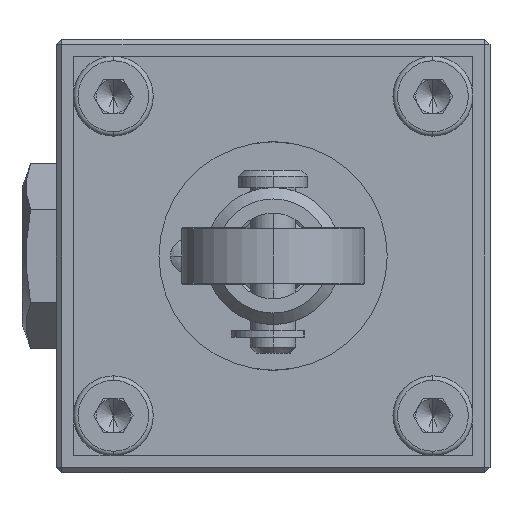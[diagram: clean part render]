
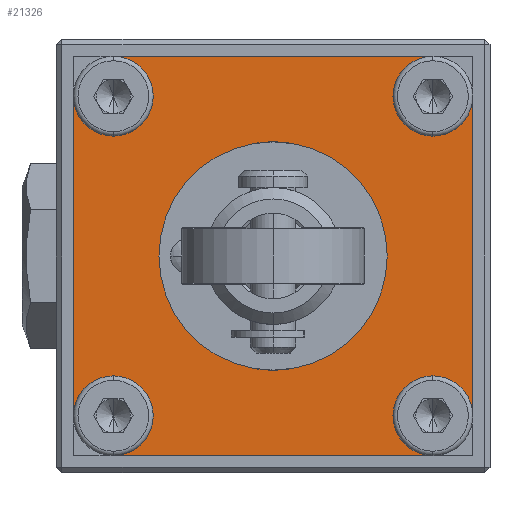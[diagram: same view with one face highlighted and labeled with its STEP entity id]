
A CAD part, left-side view. The second image highlights one B-rep face of the part: STEP entity #21326.
In plain terms, the highlighted planar face has unit normal (-1, 0, 0).
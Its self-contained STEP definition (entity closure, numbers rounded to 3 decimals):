
#133 = CIRCLE ( 'NONE', #16023, 3.5 ) ;
#794 = CARTESIAN_POINT ( 'NONE',  ( -19., 14., -14. ) ) ;
#960 = ORIENTED_EDGE ( 'NONE', *, *, #29785, .F. ) ;
#1013 = AXIS2_PLACEMENT_3D ( 'NONE', #40211, #12799, #44833 ) ;
#3227 = VERTEX_POINT ( 'NONE', #30214 ) ;
#3653 = AXIS2_PLACEMENT_3D ( 'NONE', #54895, #54686, #53870 ) ;
#3751 = CARTESIAN_POINT ( 'NONE',  ( -19., 7.5, 1.6 ) ) ;
#3828 = ORIENTED_EDGE ( 'NONE', *, *, #30053, .F. ) ;
#3909 = CARTESIAN_POINT ( 'NONE',  ( -19., -14., 14. ) ) ;
#4803 = CIRCLE ( 'NONE', #30441, 3.5 ) ;
#4923 = AXIS2_PLACEMENT_3D ( 'NONE', #58546, #58535, #58473 ) ;
#5716 = AXIS2_PLACEMENT_3D ( 'NONE', #31584, #31501, #31431 ) ;
#5722 = VERTEX_POINT ( 'NONE', #55428 ) ;
#5928 = ORIENTED_EDGE ( 'NONE', *, *, #29624, .F. ) ;
#7204 = ORIENTED_EDGE ( 'NONE', *, *, #30063, .F. ) ;
#8144 = EDGE_CURVE ( 'NONE', #13792, #39085, #18884, .T. ) ;
#8515 = EDGE_CURVE ( 'NONE', #12744, #3227, #37879, .T. ) ;
#8715 = DIRECTION ( 'NONE',  ( 0., 0., 1. ) ) ;
#9666 = CIRCLE ( 'NONE', #27898, 3.5 ) ;
#9762 = CARTESIAN_POINT ( 'NONE',  ( -19., 14., -14. ) ) ;
#10939 = EDGE_CURVE ( 'NONE', #10958, #16752, #4803, .T. ) ;
#10958 = VERTEX_POINT ( 'NONE', #29569 ) ;
#11287 = FACE_BOUND ( 'NONE', #41205, .T. ) ;
#12176 = EDGE_CURVE ( 'NONE', #50279, #59066, #13936, .T. ) ;
#12744 = VERTEX_POINT ( 'NONE', #37353 ) ;
#12799 = DIRECTION ( 'NONE',  ( -1., 0., 0. ) ) ;
#12934 = CARTESIAN_POINT ( 'NONE',  ( -19., -17.5, 17.5 ) ) ;
#13064 = AXIS2_PLACEMENT_3D ( 'NONE', #40093, #40017, #39954 ) ;
#13082 = EDGE_CURVE ( 'NONE', #44368, #32156, #43165, .T. ) ;
#13792 = VERTEX_POINT ( 'NONE', #56078 ) ;
#13936 = CIRCLE ( 'NONE', #3653, 3.5 ) ;
#14378 = ORIENTED_EDGE ( 'NONE', *, *, #12176, .F. ) ;
#14451 = DIRECTION ( 'NONE',  ( 0., 1., 0. ) ) ;
#14597 = CARTESIAN_POINT ( 'NONE',  ( -19., 14., -17.5 ) ) ;
#15280 = EDGE_CURVE ( 'NONE', #15705, #5722, #44722, .T. ) ;
#15369 = LINE ( 'NONE', #12934, #38189 ) ;
#15580 = CARTESIAN_POINT ( 'NONE',  ( -19., -14., 10.5 ) ) ;
#15705 = VERTEX_POINT ( 'NONE', #16681 ) ;
#16023 = AXIS2_PLACEMENT_3D ( 'NONE', #25025, #56509, #29525 ) ;
#16295 = CARTESIAN_POINT ( 'NONE',  ( -19., -14., -14. ) ) ;
#16681 = CARTESIAN_POINT ( 'NONE',  ( -19., 14., -10.5 ) ) ;
#16752 = VERTEX_POINT ( 'NONE', #15580 ) ;
#16799 = CARTESIAN_POINT ( 'NONE',  ( -19., -17.5, 17.5 ) ) ;
#16884 = DIRECTION ( 'NONE',  ( -1., 0., 0. ) ) ;
#16950 = CARTESIAN_POINT ( 'NONE',  ( -19., 14., 14. ) ) ;
#17338 = CARTESIAN_POINT ( 'NONE',  ( -19., 17.5, 14. ) ) ;
#17575 = ORIENTED_EDGE ( 'NONE', *, *, #29866, .F. ) ;
#18150 = DIRECTION ( 'NONE',  ( -1., 0., 0. ) ) ;
#18475 = LINE ( 'NONE', #55854, #29062 ) ;
#18884 = CIRCLE ( 'NONE', #4923, 1.6 ) ;
#20992 = DIRECTION ( 'NONE',  ( 0., 0., 1. ) ) ;
#21326 = ADVANCED_FACE ( 'NONE', ( #11287, #35646, #56778 ), #44419, .F. ) ;
#21716 = ORIENTED_EDGE ( 'NONE', *, *, #10939, .F. ) ;
#22539 = DIRECTION ( 'NONE',  ( 0., 0., -1. ) ) ;
#22812 = DIRECTION ( 'NONE',  ( 0., 0., 1. ) ) ;
#23517 = AXIS2_PLACEMENT_3D ( 'NONE', #794, #58125, #57131 ) ;
#24841 = ORIENTED_EDGE ( 'NONE', *, *, #8515, .F. ) ;
#24952 = VERTEX_POINT ( 'NONE', #14597 ) ;
#24968 = ORIENTED_EDGE ( 'NONE', *, *, #13082, .F. ) ;
#25025 = CARTESIAN_POINT ( 'NONE',  ( -19., 0., 0. ) ) ;
#27541 = CIRCLE ( 'NONE', #38589, 1.6 ) ;
#27898 = AXIS2_PLACEMENT_3D ( 'NONE', #9762, #41788, #14451 ) ;
#28323 = ORIENTED_EDGE ( 'NONE', *, *, #30045, .F. ) ;
#28357 = DIRECTION ( 'NONE',  ( 0., 0., 1. ) ) ;
#28430 = LINE ( 'NONE', #45395, #51071 ) ;
#28535 = DIRECTION ( 'NONE',  ( -1., 0., 0. ) ) ;
#28590 = CARTESIAN_POINT ( 'NONE',  ( -19., -14., 14. ) ) ;
#28657 = DIRECTION ( 'NONE',  ( 0., 1., 0. ) ) ;
#29005 = ORIENTED_EDGE ( 'NONE', *, *, #29535, .F. ) ;
#29062 = VECTOR ( 'NONE', #28657, 1000. ) ;
#29376 = EDGE_CURVE ( 'NONE', #3227, #12744, #133, .T. ) ;
#29467 = EDGE_CURVE ( 'NONE', #51690, #10958, #37696, .T. ) ;
#29525 = DIRECTION ( 'NONE',  ( 0., 1., 0. ) ) ;
#29535 = EDGE_CURVE ( 'NONE', #32156, #51690, #46194, .T. ) ;
#29569 = CARTESIAN_POINT ( 'NONE',  ( -19., -14., 17.5 ) ) ;
#29575 = CARTESIAN_POINT ( 'NONE',  ( -19., 14., 10.5 ) ) ;
#29624 = EDGE_CURVE ( 'NONE', #5722, #44368, #28430, .T. ) ;
#29701 = EDGE_CURVE ( 'NONE', #24952, #15705, #9666, .T. ) ;
#29785 = EDGE_CURVE ( 'NONE', #59066, #24952, #18475, .T. ) ;
#29866 = EDGE_CURVE ( 'NONE', #33660, #50279, #33227, .T. ) ;
#30004 = CARTESIAN_POINT ( 'NONE',  ( -19., -17.5, 14. ) ) ;
#30045 = EDGE_CURVE ( 'NONE', #34656, #33660, #15369, .T. ) ;
#30053 = EDGE_CURVE ( 'NONE', #16752, #34656, #50243, .T. ) ;
#30063 = EDGE_CURVE ( 'NONE', #39085, #13792, #27541, .T. ) ;
#30214 = CARTESIAN_POINT ( 'NONE',  ( -19., 0., -3.5 ) ) ;
#30441 = AXIS2_PLACEMENT_3D ( 'NONE', #28590, #28535, #28357 ) ;
#31431 = DIRECTION ( 'NONE',  ( 0., 1., 0. ) ) ;
#31501 = DIRECTION ( 'NONE',  ( 1., 0., 0. ) ) ;
#31584 = CARTESIAN_POINT ( 'NONE',  ( -19., 0., 0. ) ) ;
#32156 = VERTEX_POINT ( 'NONE', #29575 ) ;
#32379 = ORIENTED_EDGE ( 'NONE', *, *, #8144, .F. ) ;
#32473 = AXIS2_PLACEMENT_3D ( 'NONE', #3909, #36117, #8715 ) ;
#33227 = CIRCLE ( 'NONE', #40840, 3.5 ) ;
#33364 = CARTESIAN_POINT ( 'NONE',  ( -19., -14., -10.5 ) ) ;
#33379 = VECTOR ( 'NONE', #44054, 1000. ) ;
#33660 = VERTEX_POINT ( 'NONE', #42431 ) ;
#34656 = VERTEX_POINT ( 'NONE', #30004 ) ;
#35106 = CARTESIAN_POINT ( 'NONE',  ( -19., 14., 17.5 ) ) ;
#35646 = FACE_OUTER_BOUND ( 'NONE', #38249, .T. ) ;
#36117 = DIRECTION ( 'NONE',  ( -1., 0., 0. ) ) ;
#36709 = ORIENTED_EDGE ( 'NONE', *, *, #29701, .F. ) ;
#37353 = CARTESIAN_POINT ( 'NONE',  ( -19., 0., 3.5 ) ) ;
#37354 = AXIS2_PLACEMENT_3D ( 'NONE', #16950, #16884, #40753 ) ;
#37696 = LINE ( 'NONE', #16799, #33379 ) ;
#37879 = CIRCLE ( 'NONE', #13064, 3.5 ) ;
#38189 = VECTOR ( 'NONE', #22539, 1000. ) ;
#38249 = EDGE_LOOP ( 'NONE', ( #21716, #49869, #29005, #24968, #5928, #42336, #36709, #960, #14378, #17575, #28323, #3828 ) ) ;
#38589 = AXIS2_PLACEMENT_3D ( 'NONE', #45314, #18150, #49809 ) ;
#39085 = VERTEX_POINT ( 'NONE', #3751 ) ;
#39954 = DIRECTION ( 'NONE',  ( 0., 1., 0. ) ) ;
#40017 = DIRECTION ( 'NONE',  ( -1., 0., 0. ) ) ;
#40093 = CARTESIAN_POINT ( 'NONE',  ( -19., 0., 0. ) ) ;
#40211 = CARTESIAN_POINT ( 'NONE',  ( -19., 14., 14. ) ) ;
#40753 = DIRECTION ( 'NONE',  ( 0., 1., 0. ) ) ;
#40840 = AXIS2_PLACEMENT_3D ( 'NONE', #16295, #48081, #20992 ) ;
#41205 = EDGE_LOOP ( 'NONE', ( #43591, #24841 ) ) ;
#41788 = DIRECTION ( 'NONE',  ( -1., 0., 0. ) ) ;
#42336 = ORIENTED_EDGE ( 'NONE', *, *, #15280, .F. ) ;
#42431 = CARTESIAN_POINT ( 'NONE',  ( -19., -17.5, -14. ) ) ;
#43165 = CIRCLE ( 'NONE', #37354, 3.5 ) ;
#43591 = ORIENTED_EDGE ( 'NONE', *, *, #29376, .F. ) ;
#44054 = DIRECTION ( 'NONE',  ( 0., -1., 0. ) ) ;
#44368 = VERTEX_POINT ( 'NONE', #17338 ) ;
#44419 = PLANE ( 'NONE',  #5716 ) ;
#44722 = CIRCLE ( 'NONE', #23517, 3.5 ) ;
#44833 = DIRECTION ( 'NONE',  ( 0., 1., 0. ) ) ;
#45314 = CARTESIAN_POINT ( 'NONE',  ( -19., 7.5, 0. ) ) ;
#45395 = CARTESIAN_POINT ( 'NONE',  ( -19., 17.5, 17.5 ) ) ;
#46194 = CIRCLE ( 'NONE', #1013, 3.5 ) ;
#47700 = EDGE_LOOP ( 'NONE', ( #7204, #32379 ) ) ;
#48081 = DIRECTION ( 'NONE',  ( -1., 0., 0. ) ) ;
#49809 = DIRECTION ( 'NONE',  ( 0., 0., 1. ) ) ;
#49869 = ORIENTED_EDGE ( 'NONE', *, *, #29467, .F. ) ;
#50243 = CIRCLE ( 'NONE', #32473, 3.5 ) ;
#50279 = VERTEX_POINT ( 'NONE', #33364 ) ;
#51071 = VECTOR ( 'NONE', #22812, 1000. ) ;
#51690 = VERTEX_POINT ( 'NONE', #35106 ) ;
#53870 = DIRECTION ( 'NONE',  ( 0., 0., 1. ) ) ;
#54686 = DIRECTION ( 'NONE',  ( -1., 0., 0. ) ) ;
#54895 = CARTESIAN_POINT ( 'NONE',  ( -19., -14., -14. ) ) ;
#55414 = CARTESIAN_POINT ( 'NONE',  ( -19., -14., -17.5 ) ) ;
#55428 = CARTESIAN_POINT ( 'NONE',  ( -19., 17.5, -14. ) ) ;
#55854 = CARTESIAN_POINT ( 'NONE',  ( -19., -17.5, -17.5 ) ) ;
#56078 = CARTESIAN_POINT ( 'NONE',  ( -19., 7.5, -1.6 ) ) ;
#56509 = DIRECTION ( 'NONE',  ( -1., 0., 0. ) ) ;
#56778 = FACE_BOUND ( 'NONE', #47700, .T. ) ;
#57131 = DIRECTION ( 'NONE',  ( 0., 1., 0. ) ) ;
#58125 = DIRECTION ( 'NONE',  ( -1., 0., 0. ) ) ;
#58473 = DIRECTION ( 'NONE',  ( 0., 0., 1. ) ) ;
#58535 = DIRECTION ( 'NONE',  ( -1., 0., 0. ) ) ;
#58546 = CARTESIAN_POINT ( 'NONE',  ( -19., 7.5, 0. ) ) ;
#59066 = VERTEX_POINT ( 'NONE', #55414 ) ;
